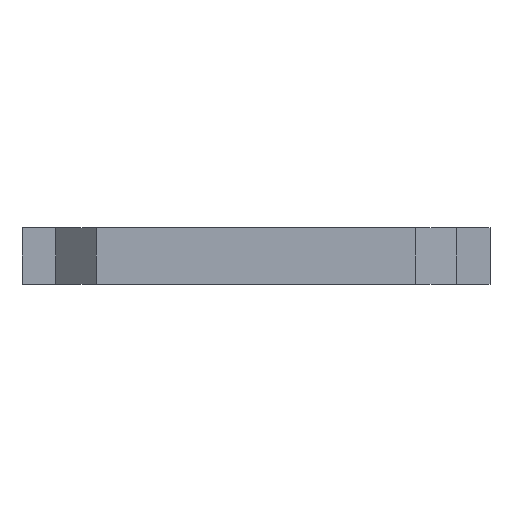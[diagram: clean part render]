
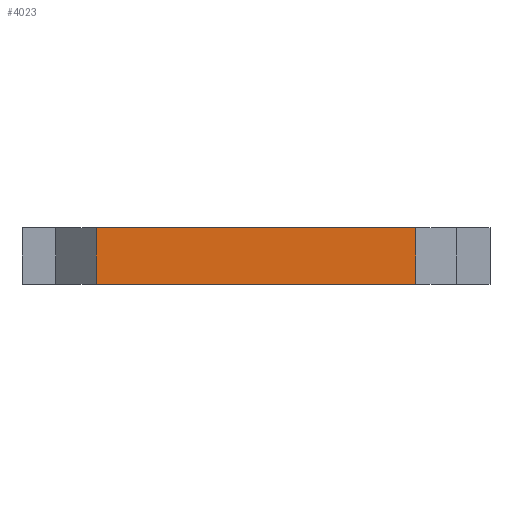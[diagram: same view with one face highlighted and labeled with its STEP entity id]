
A CAD part, left-side view. The second image highlights one B-rep face of the part: STEP entity #4023.
In plain terms, the highlighted planar face has unit normal (-1, 0, 0).
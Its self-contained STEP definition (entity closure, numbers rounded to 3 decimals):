
#512=FACE_OUTER_BOUND('',#743,.T.);
#743=EDGE_LOOP('',(#3667,#3668,#3669,#3670));
#1072=LINE('',#6979,#1476);
#1129=LINE('',#7109,#1533);
#1143=LINE('',#7136,#1547);
#1149=LINE('',#7150,#1553);
#1476=VECTOR('',#4688,10.);
#1533=VECTOR('',#4803,10.);
#1547=VECTOR('',#4829,10.);
#1553=VECTOR('',#4847,10.);
#1887=VERTEX_POINT('',#6976);
#1888=VERTEX_POINT('',#6978);
#1932=VERTEX_POINT('',#7108);
#1939=VERTEX_POINT('',#7134);
#2440=EDGE_CURVE('',#1887,#1888,#1072,.T.);
#2502=EDGE_CURVE('',#1932,#1888,#1129,.T.);
#2516=EDGE_CURVE('',#1939,#1887,#1143,.T.);
#2523=EDGE_CURVE('',#1932,#1939,#1149,.T.);
#3667=ORIENTED_EDGE('',*,*,#2523,.F.);
#3668=ORIENTED_EDGE('',*,*,#2502,.T.);
#3669=ORIENTED_EDGE('',*,*,#2440,.F.);
#3670=ORIENTED_EDGE('',*,*,#2516,.F.);
#3810=PLANE('',#4176);
#4023=ADVANCED_FACE('',(#512),#3810,.T.);
#4176=AXIS2_PLACEMENT_3D('',#7149,#4845,#4846);
#4688=DIRECTION('',(0.,-1.,0.));
#4803=DIRECTION('',(0.,0.,1.));
#4829=DIRECTION('',(0.,0.,1.));
#4845=DIRECTION('center_axis',(-1.,0.,0.));
#4846=DIRECTION('ref_axis',(0.,-1.,0.));
#4847=DIRECTION('',(0.,1.,0.));
#6976=CARTESIAN_POINT('',(-24.9,17.001,6.));
#6978=CARTESIAN_POINT('',(-24.9,-17.001,6.));
#6979=CARTESIAN_POINT('',(-24.9,17.001,6.));
#7108=CARTESIAN_POINT('',(-24.9,-17.001,0.));
#7109=CARTESIAN_POINT('',(-24.9,-17.001,0.));
#7134=CARTESIAN_POINT('',(-24.9,17.001,0.));
#7136=CARTESIAN_POINT('',(-24.9,17.001,0.));
#7149=CARTESIAN_POINT('Origin',(-24.9,16.801,0.));
#7150=CARTESIAN_POINT('',(-24.9,-16.801,0.));
